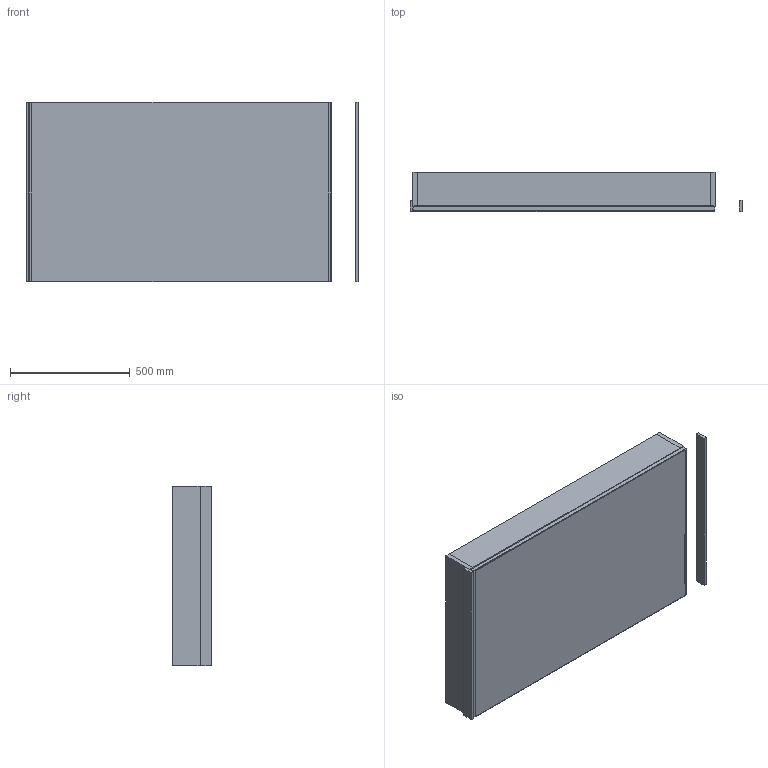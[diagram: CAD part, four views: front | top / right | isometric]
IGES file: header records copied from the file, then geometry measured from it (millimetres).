
Start section: Data from Parasolid IGES Translator 19.0.9, Copyright(c) 2006 Siemens PL M Software. All Rights Reserved.
Global section: file name: noorth-mirror-H 75 D 4,5-16 W 126_9153.igs; native system: By Siemens PLM Incorporated; preprocessor: XPlus GENERIC/IGES 19.0.9; author: Noname; organization: Noname; date: 20200519.112949; units: metre
Bounding box: 1383.82 x 162 x 750 mm (x, y, z)
Volume: 32415824 mm3; surface area: 7120744.4 mm2
Topology: 10 solids, 10 shells, 84 faces, 168 edges, 104 vertices
Faces by surface type: plane 84
